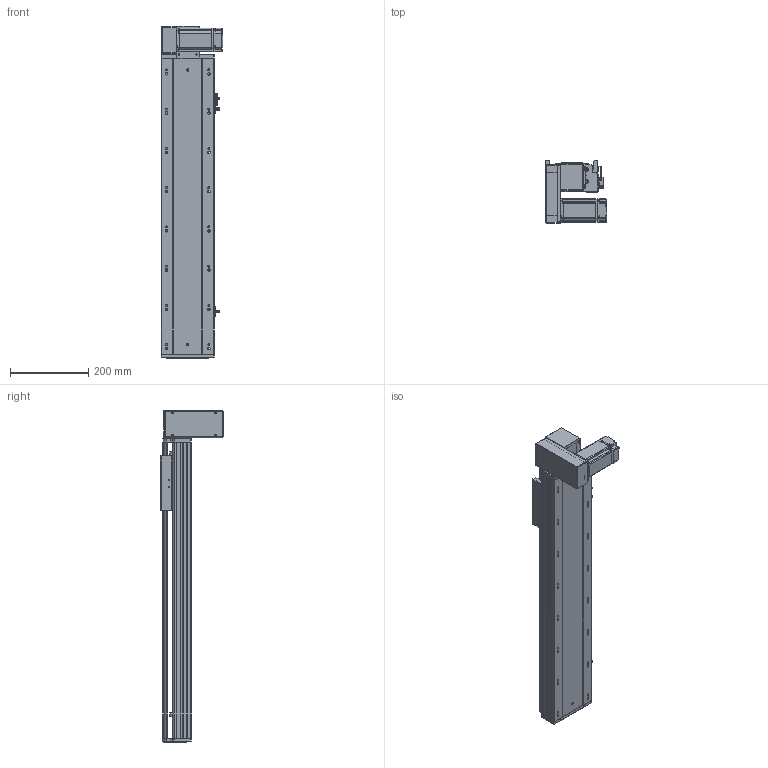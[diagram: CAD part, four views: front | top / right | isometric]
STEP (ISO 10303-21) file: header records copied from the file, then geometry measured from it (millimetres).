
FILE_DESCRIPTION (( 'STEP AP203' ), '1' );
FILE_NAME ('RY140-T-300-DL.SLDASM_500.step', '2021-03-01T06:05:43', ( '盈信电脑' ), ( '东莞市道滘镇水果街19号' ), 'SwSTEP 2.0', 'SolidWorks 2012', '' );
FILE_SCHEMA (( 'CONFIG_CONTROL_DESIGN' ));
Length unit declared in the file: millimetre
Products named in the file (18): RY140肮祭謫臏賑輸; RY140-T-300-DL倰第奻裔啣_500; RY140-T-300-DL倰第菁釱_500; RY120外置感应片(140共用）; 覜茼ん672; RY140綴裔啣; RY140-T-300-DL.SLDASM_500; RY140-T翋肮謫裔啣; 滅袉蝶18-10; RY140-T萇儂欶; RY120-T主同步轮轴承压盖; RY120-T蹟翐M4; RY140-T翋肮祭謫盓傅釱; RY140-T萇儂假蚾啣; 侂狟400W侜督萇儂; 15; RY120-T肮祭湍揤踡輸2; RY120-T肮祭湍揤踡輸1
Assembly tree (23 placements, depth 3):
  RY140-T-300-DL.SLDASM_500
    RY140-T-300-DL倰第菁釱_500
    RY140肮祭謫臏賑輸
    RY140-T-300-DL倰第奻裔啣_500
    RY140綴裔啣
    覜茼ん672  x3
    RY120外置感应片(140共用）
    RY120-T肮祭湍揤踡輸2
    RY120-T肮祭湍揤踡輸1
    RY140-T翋肮祭謫盓傅釱
    RY140-T萇儂假蚾啣
    侂狟400W侜督萇儂
      15
    RY120-T主同步轮轴承压盖
    RY120-T蹟翐M4  x4
    RY140-T萇儂欶
    滅袉蝶18-10  x2
    RY140-T翋肮謫裔啣
Bounding box: 157 x 158.5 x 846 mm (x, y, z)
Volume: 2796316.5 mm3; surface area: 1036924.7 mm2
Topology: 22 solids, 22 shells, 2630 faces, 7222 edges, 4658 vertices
Faces by surface type: plane 1389, cylinder 955, cone 186, bspline 100
Entity records: 83644 total; most frequent: CARTESIAN_POINT 20533, ORIENTED_EDGE 12996, DIRECTION 12280, EDGE_CURVE 6498, VERTEX_POINT 4257, LINE 4166, VECTOR 4166, AXIS2_PLACEMENT_3D 4057
